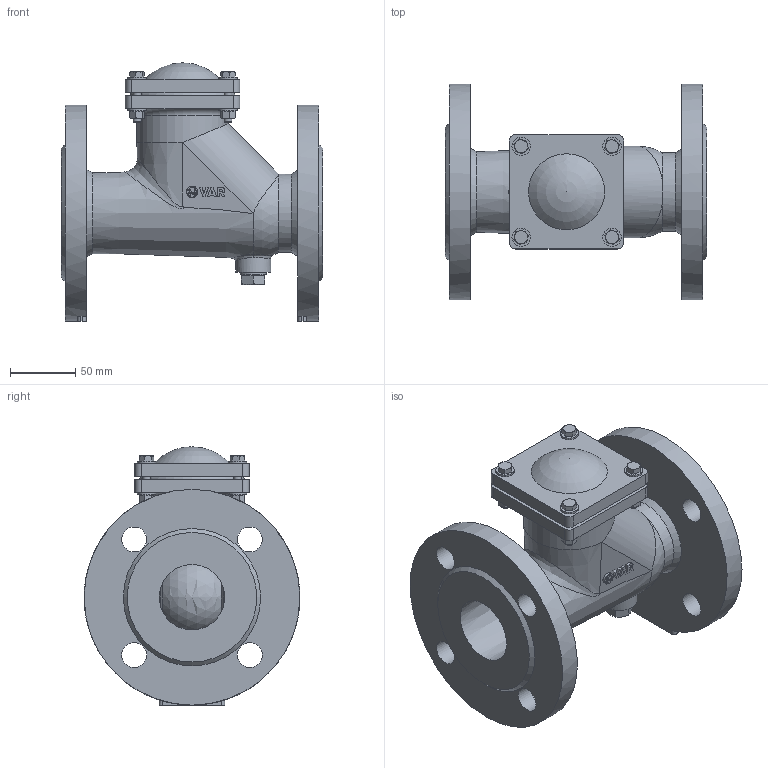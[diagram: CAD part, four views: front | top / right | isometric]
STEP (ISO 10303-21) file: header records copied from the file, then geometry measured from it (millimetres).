
FILE_DESCRIPTION(('STEP AP203'), '1');
FILE_NAME('Øàðîâîé îáðàòíûé êëàïàí VAG KRV', '', ('UNSPECIFIED'), ('UNSPECIFIED'), 'C3D Converter', 'C3D Toolkit', '');
FILE_SCHEMA(('CONFIG_CONTROL_DESIGN'));
Length unit declared in the file: millimetre
Assembly tree (22 placements, depth 2):
  (unnamed)
    (unnamed)
    (unnamed)
    (unnamed)
    (unnamed)
    (unnamed)
    (unnamed)  x8
    (unnamed)  x4
    (unnamed)  x4
    (unnamed)
Bounding box: 200 x 165 x 197.5 mm (x, y, z)
Volume: 1088520.9 mm3; surface area: 259502.5 mm2
Topology: 23 solids, 24 shells, 545 faces, 1396 edges, 931 vertices
Faces by surface type: plane 253, extrusion 134, cylinder 75, cone 58, sphere 9, torus 8, bspline 8
Full cylindrical faces by diameter (mm): 4.917 x4, 5.4 x8, 6 x4, 8 x8, 8.881 x1, 12 x2, 13 x1, 14 x8, 16.63 x1, 19 x8, 20 x1, 27 x1, 50 x1, 60 x3, 70 x1, 165 x2
Entity records: 20980 total; most frequent: CARTESIAN_POINT 8425, ORIENTED_EDGE 2070, DIRECTION 1588, EDGE_CURVE 1035, VERTEX_POINT 712, VECTOR 656, EDGE_LOOP 545, LINE 522
